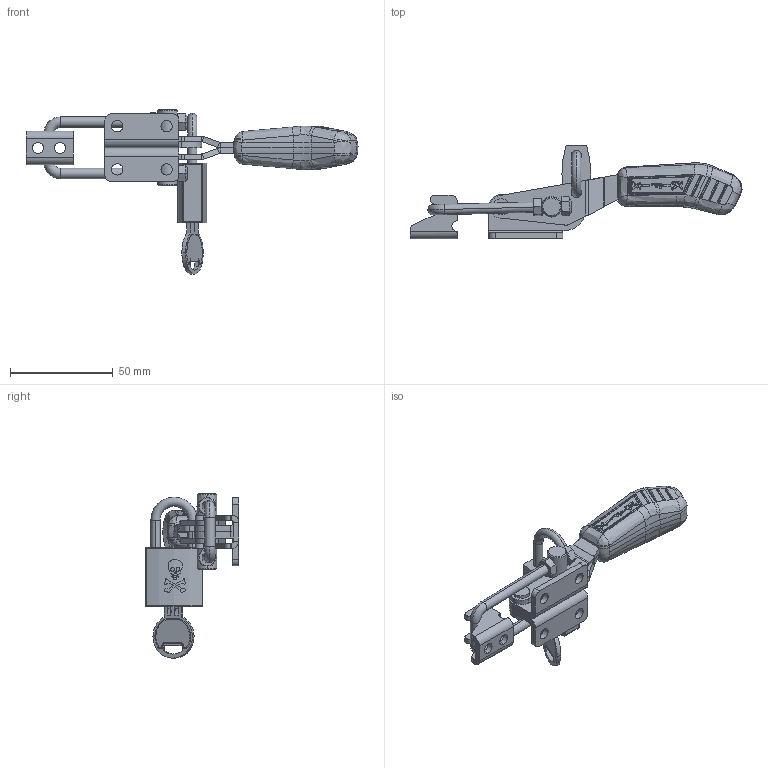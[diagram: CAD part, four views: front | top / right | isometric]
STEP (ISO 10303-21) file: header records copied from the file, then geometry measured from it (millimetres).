
FILE_DESCRIPTION (( 'STEP AP203' ), '1' );
FILE_NAME ('KF-743 DC.STEP', '2014-08-20T20:28:20', ( 'Ricardo' ), ( '' ), 'SwSTEP 2.0', 'SolidWorks 2013', '' );
FILE_SCHEMA (( 'CONFIG_CONTROL_DESIGN' ));
Length unit declared in the file: millimetre
Products named in the file (19): User Library-cadeado_lingueta cad; 03.20018; User Library-cadeado_haste cad; 15.10026; User Library-cadeado_chapa cad; 11.50005; User Library-cadeado_chave cad; 11.50013; 02.12122_Direita; cadeado ﾘ4,5; 07.60005; 02.12039_Esquerda; KF-743 DC; 06.50023; 01.10187_Direita; User Library-cadeado_CORPO cad; 01.10187_Esquerda; User Library-cadeado_miolo cad; 16.20034
Assembly tree (20 placements, depth 3):
  KF-743 DC
    02.12122_Direita
    02.12039_Esquerda
    01.10187_Direita
    01.10187_Esquerda
    16.20034
    03.20018
    15.10026
    11.50005  x2
    11.50013  x2
    07.60005
    06.50023
    cadeado ﾘ4,5
      User Library-cadeado_CORPO cad
      User Library-cadeado_miolo cad
      User Library-cadeado_lingueta cad
      User Library-cadeado_haste cad
      User Library-cadeado_chapa cad
      User Library-cadeado_chave cad
Bounding box: 161.44 x 45.5 x 79.95 mm (x, y, z)
Volume: 44160.7 mm3; surface area: 38512.7 mm2
Topology: 19 solids, 22 shells, 1257 faces, 3252 edges, 2057 vertices
Faces by surface type: plane 422, cylinder 355, bspline 343, cone 74, sphere 52, torus 11
Entity records: 47935 total; most frequent: CARTESIAN_POINT 19234, ORIENTED_EDGE 6268, DIRECTION 4578, EDGE_CURVE 3134, VERTEX_POINT 1990, AXIS2_PLACEMENT_3D 1650, EDGE_LOOP 1294, VECTOR 1278
